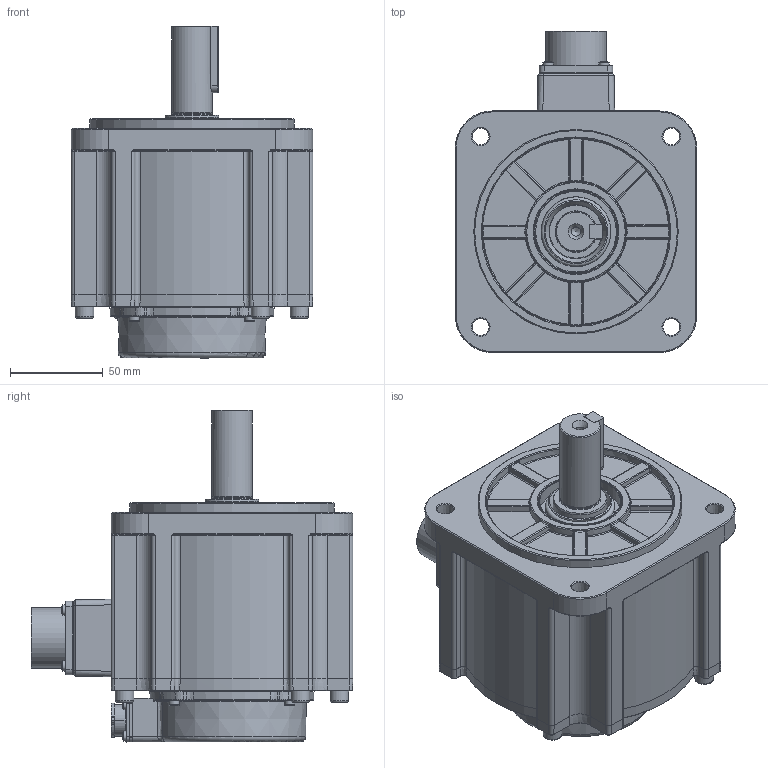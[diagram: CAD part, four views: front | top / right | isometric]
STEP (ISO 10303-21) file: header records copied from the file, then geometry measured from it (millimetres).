
FILE_DESCRIPTION (( 'STEP AP203' ), '1' );
FILE_NAME ('130µç»ú_DM2A-13A130I8S.STEP', '2025-04-08T06:59:55', ( 'MIDEA' ), ( 'MIDEA' ), 'SwSTEP 2.0', 'SolidWorks 2020', '' );
FILE_SCHEMA (( 'CONFIG_CONTROL_DESIGN' ));
Length unit declared in the file: millimetre
Products named in the file (30): 2010200-0227_十字槽盘头螺钉-M3x30-8.8级-镀锌镍合金+耐落(GB-T818 2000); 2010100-0185_内六角圆柱头螺钉-M6x20-8.8级-镀锌镍合金+耐落(GB-T 70.1); 1030204-0223_信号连接器公座-连接器插座23.4x23.4mm-插针10xΦ0.7-工作电流3A-耐压900V额定200V; 130綴傷裔_HDG13B130PH3; 棠詩_CG13A130DM2A; 2010100-0180_内六角圆柱头螺钉-M3x10-8.8级-镀锌镍合金+耐落(GB-T 70.1); 1012100-0156_濮揤諉盄傷赽_RV2-3懦; 1030207-0243_130蟀諉ん價釱_LQZ15A130DM1S; 2010200-0231_十字槽盘头自挤螺钉-M3x8-镀锌镍合金（黑）（GB-T 6560）; 130珨极褲_YTK13A130DM2A; 130萇儂_DM2A-13A130I8S; 2010500-0094_す瑩-B8x7x32-湍M3れ瑩蹟恇謂(GB-T 1096-2003); 3026400-0029_动力连接器插座组件_DLQ15A130DM1S; 130粣_Z13A130DM2A; 1030204-0054_萇埭脣釱_YD28J4Z; 1022600-0017_蚐猾-TC30X45X8-NBR; 2010200-0186_十字盘头带垫螺丝-M3x4（镀白镍); 130隅赽傖こ_DZ13A130DM2A; 2011200-0089_疏倛粟銅-孜62x孜51.69x2.36x0.61; 130珨极褲禱矗_YTK13A130DM2AM; 130綴傷裔禱矗_HDG13A130PH3SM; 3021200-0021_130后罩壳（黑色）_HZK15A130DM1S-H; 1030207-0244_130蟀諉ん價釱躇猾菜_LQMF15A130DM1S; 1022700-0047_130躇猾菜_MFD15A130DM1S; 3020106-0048_130编码器成品_130编码器组件（130编码器组件（DM2黑色后罩壳 锐鹰端子式 出线17）; 蛌赽郪璃_ZZ13A130DM2A; 1022500-0070_深沟球轴承_深沟球轴承-6206ZZCML448; 1022500-0071_深沟球轴承_深沟球轴承-6204LUZCML448; 60滅蚐眲揤裔_YG04A60PH3; 1022700-0046_130O型圈_OR15A130DM1S
Assembly tree (49 placements, depth 4):
  130萇儂_DM2A-13A130I8S
    130隅赽傖こ_DZ13A130DM2A
      1030207-0243_130蟀諉ん價釱_LQZ15A130DM1S
      2010200-0186_十字盘头带垫螺丝-M3x4（镀白镍)
      2010200-0227_十字槽盘头螺钉-M3x30-8.8级-镀锌镍合金+耐落(GB-T818 2000)  x4
      3026400-0029_动力连接器插座组件_DLQ15A130DM1S
        1030204-0054_萇埭脣釱_YD28J4Z
        1012100-0156_濮揤諉盄傷赽_RV2-3懦
      1030207-0244_130蟀諉ん價釱躇猾菜_LQMF15A130DM1S
      130珨极褲_YTK13A130DM2A
        130珨极褲禱矗_YTK13A130DM2AM
    130綴傷裔_HDG13B130PH3
      130綴傷裔禱矗_HDG13A130PH3SM
    蛌赽郪璃_ZZ13A130DM2A
      130粣_Z13A130DM2A
      1022500-0070_深沟球轴承_深沟球轴承-6206ZZCML448
      1022500-0071_深沟球轴承_深沟球轴承-6204LUZCML448
      棠詩_CG13A130DM2A  x9
    2011200-0089_疏倛粟銅-孜62x孜51.69x2.36x0.61
    1022600-0017_蚐猾-TC30X45X8-NBR
    1022700-0046_130O型圈_OR15A130DM1S
    2010100-0185_内六角圆柱头螺钉-M6x20-8.8级-镀锌镍合金+耐落(GB-T 70.1)  x4
    2010100-0180_内六角圆柱头螺钉-M3x10-8.8级-镀锌镍合金+耐落(GB-T 70.1)  x4
    2010500-0094_す瑩-B8x7x32-湍M3れ瑩蹟恇謂(GB-T 1096-2003)
    3020106-0048_130编码器成品_130编码器组件（130编码器组件（DM2黑色后罩壳 锐鹰端子式 出线17）
      3021200-0021_130后罩壳（黑色）_HZK15A130DM1S-H
      1030204-0223_信号连接器公座-连接器插座23.4x23.4mm-插针10xΦ0.7-工作电流3A-耐压900V额定200V
      2010200-0231_十字槽盘头自挤螺钉-M3x8-镀锌镍合金（黑）（GB-T 6560）  x4
    1022700-0047_130躇猾菜_MFD15A130DM1S
    60滅蚐眲揤裔_YG04A60PH3
Bounding box: 130 x 173 x 178.65 mm (x, y, z)
Volume: 747719.4 mm3; surface area: 308048.2 mm2
Topology: 51 solids, 51 shells, 5554 faces, 14583 edges, 9362 vertices
Faces by surface type: plane 2691, bspline 1491, cylinder 731, cone 302, torus 232, sphere 107
Full cylindrical faces by diameter (mm): 1.6 x6, 2.05 x2, 2.5 x20, 2.8 x4, 3 x17, 3.1 x1, 3.5 x14, 3.6 x4, 3.8 x4, 4 x1, 5 x5, 5.5 x5, 5.6 x8, 6 x6, 7 x2, 8 x2, 10 x4, 12 x1, 13.2 x1, 15 x1, 17.2 x1, 18 x1, 19.6 x1, 20 x2, 21 x2, 21.6 x1, 22 x1, 23 x1, 28 x3, 28.6 x1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
Entity records: 227112 total; most frequent: CARTESIAN_POINT 105922, ORIENTED_EDGE 26702, DIRECTION 19702, EDGE_CURVE 13351, VERTEX_POINT 8754, LINE 7860, VECTOR 7860, AXIS2_PLACEMENT_3D 5921
